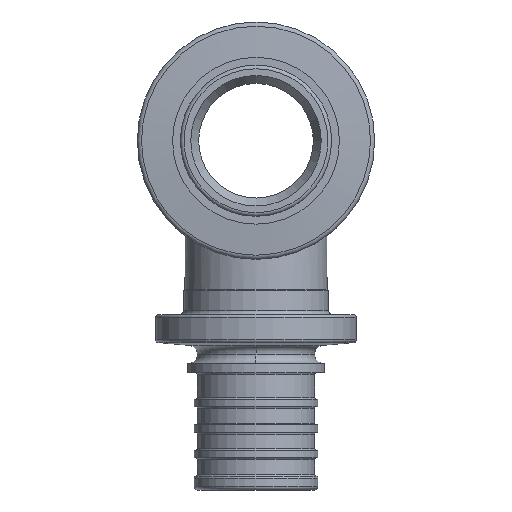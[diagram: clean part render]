
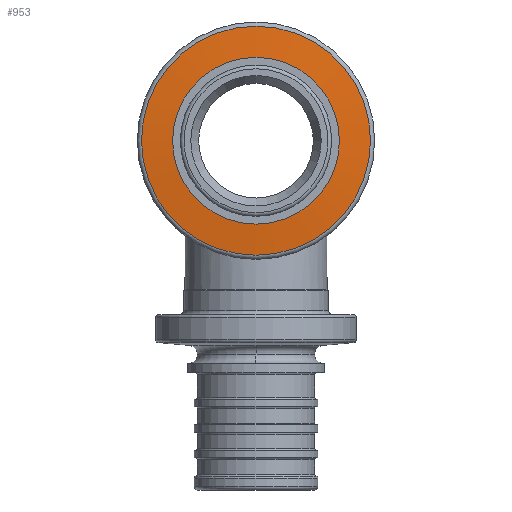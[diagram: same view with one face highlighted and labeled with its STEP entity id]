
A CAD part, front view. The second image highlights one B-rep face of the part: STEP entity #953.
In plain terms, the highlighted conical face has half-angle 85 degrees and reference radius 10.628 mm.
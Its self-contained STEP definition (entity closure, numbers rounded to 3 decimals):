
#953=ADVANCED_FACE('',(#4556,#4558),#4560,.T.);
#4556=FACE_OUTER_BOUND('',#4557,.T.);
#4557=EDGE_LOOP('',(#7020));
#4558=FACE_OUTER_BOUND('',#4559,.T.);
#4559=EDGE_LOOP('',(#7021));
#4560=CONICAL_SURFACE('',#4561,10.628,1.484);
#4561=AXIS2_PLACEMENT_3D('',#4562,#4563,#4564);
#4562=CARTESIAN_POINT('',(0.,-20.503,0.));
#4563=DIRECTION('',(0.,1.,0.));
#4564=DIRECTION('',(-1.,0.,0.));
#7020=ORIENTED_EDGE('',*,*,#9168,.T.);
#7021=ORIENTED_EDGE('',*,*,#9171,.T.);
#9168=EDGE_CURVE('',#10184,#10184,#10185,.T.);
#9171=EDGE_CURVE('',#10190,#10190,#10191,.F.);
#10184=VERTEX_POINT('',#12290);
#10185=CIRCLE('',#12291,8.763);
#10190=VERTEX_POINT('',#12305);
#10191=CIRCLE('',#12306,12.494);
#12290=CARTESIAN_POINT('',(-8.763,-20.666,0.));
#12291=AXIS2_PLACEMENT_3D('',#12292,#12293,#12294);
#12292=CARTESIAN_POINT('',(0.,-20.666,0.));
#12293=DIRECTION('',(0.,1.,0.));
#12294=DIRECTION('',(-1.,0.,0.));
#12305=CARTESIAN_POINT('',(-12.494,-20.34,0.));
#12306=AXIS2_PLACEMENT_3D('',#12307,#12308,#12309);
#12307=CARTESIAN_POINT('',(0.,-20.34,0.));
#12308=DIRECTION('',(0.,1.,0.));
#12309=DIRECTION('',(-1.,0.,0.));
